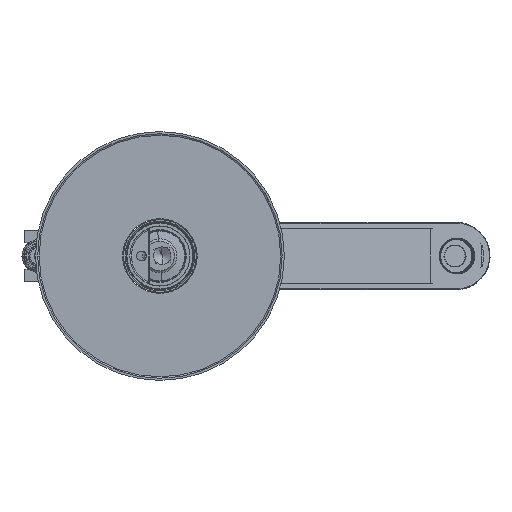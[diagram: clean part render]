
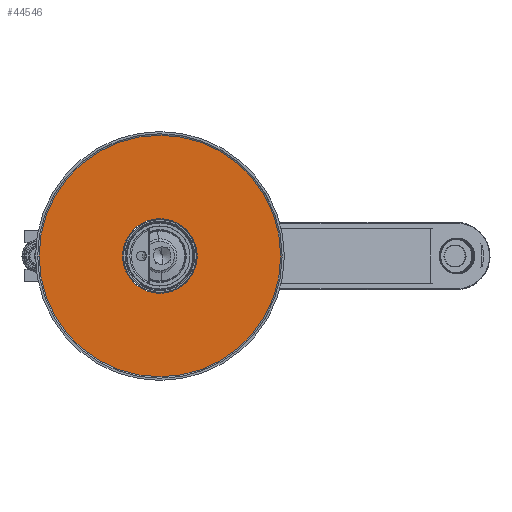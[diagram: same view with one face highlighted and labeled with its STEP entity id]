
A CAD part, front view. The second image highlights one B-rep face of the part: STEP entity #44546.
In plain terms, the highlighted planar face has unit normal (0, -1, 0).
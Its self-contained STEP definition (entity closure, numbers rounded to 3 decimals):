
#44363=CARTESIAN_POINT('',(0.,-695.,0.));
#44364=DIRECTION('',(0.,1.,0.));
#44365=DIRECTION('',(-1.,0.,0.));
#44366=AXIS2_PLACEMENT_3D('',#44363,#44364,#44365);
#44368=CARTESIAN_POINT('',(0.,-695.,0.));
#44369=DIRECTION('',(0.,1.,0.));
#44370=DIRECTION('',(1.,0.,0.));
#44371=AXIS2_PLACEMENT_3D('',#44368,#44369,#44370);
#44464=CARTESIAN_POINT('',(0.,-695.,0.));
#44465=DIRECTION('',(0.,1.,0.));
#44466=DIRECTION('',(-1.,0.,0.));
#44467=AXIS2_PLACEMENT_3D('',#44464,#44465,#44466);
#44473=CARTESIAN_POINT('',(0.,-695.,0.));
#44474=DIRECTION('',(0.,1.,0.));
#44475=DIRECTION('',(1.,0.,0.));
#44476=AXIS2_PLACEMENT_3D('',#44473,#44474,#44475);
#44494=CARTESIAN_POINT('',(-25.5,-695.,0.));
#44495=CARTESIAN_POINT('',(25.5,-695.,0.));
#44496=VERTEX_POINT('',#44494);
#44497=VERTEX_POINT('',#44495);
#44506=CARTESIAN_POINT('',(-82.5,-695.,0.));
#44507=CARTESIAN_POINT('',(82.5,-695.,0.));
#44508=VERTEX_POINT('',#44506);
#44509=VERTEX_POINT('',#44507);
#44530=CARTESIAN_POINT('',(0.,-695.,0.));
#44531=DIRECTION('',(0.,1.,0.));
#44532=DIRECTION('',(1.,0.,0.));
#44533=AXIS2_PLACEMENT_3D('',#44530,#44531,#44532);
#44534=PLANE('',#44533);
#44535=ORIENTED_EDGE('',*,*,#44519,.T.);
#44537=ORIENTED_EDGE('',*,*,#44536,.T.);
#44538=EDGE_LOOP('',(#44535,#44537));
#44539=FACE_OUTER_BOUND('',#44538,.F.);
#44541=ORIENTED_EDGE('',*,*,#44540,.F.);
#44543=ORIENTED_EDGE('',*,*,#44542,.F.);
#44544=EDGE_LOOP('',(#44541,#44543));
#44545=FACE_BOUND('',#44544,.F.);
#44546=ADVANCED_FACE('',(#44539,#44545),#44534,.F.);
#44367=CIRCLE('',#44366,82.5);
#44372=CIRCLE('',#44371,82.5);
#44468=CIRCLE('',#44467,25.5);
#44477=CIRCLE('',#44476,25.5);
#44519=EDGE_CURVE('',#44508,#44509,#44367,.T.);
#44536=EDGE_CURVE('',#44509,#44508,#44372,.T.);
#44540=EDGE_CURVE('',#44496,#44497,#44468,.T.);
#44542=EDGE_CURVE('',#44497,#44496,#44477,.T.);
